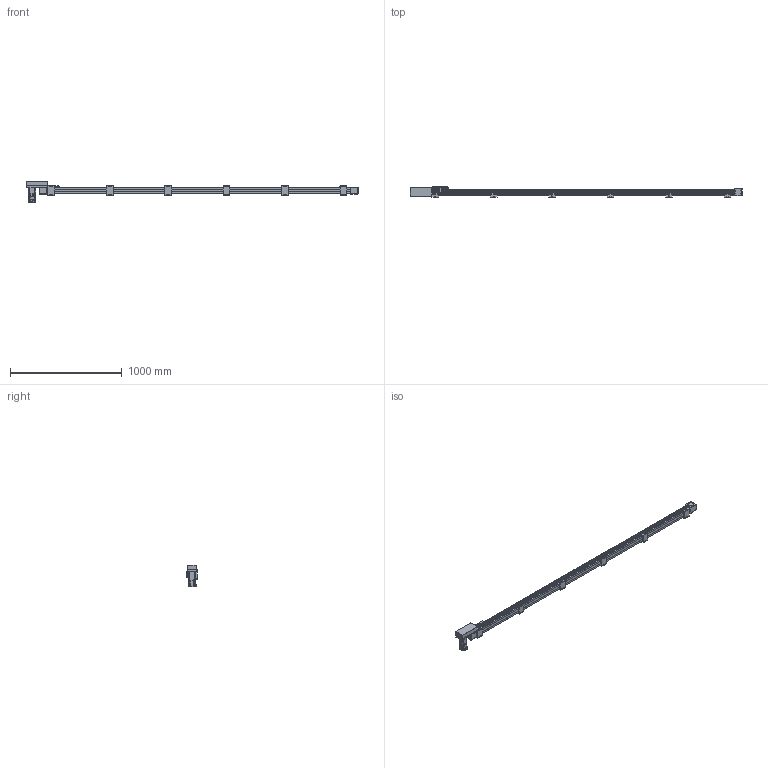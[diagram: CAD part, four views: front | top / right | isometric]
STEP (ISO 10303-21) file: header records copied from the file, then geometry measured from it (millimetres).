
FILE_DESCRIPTION(/* description */ ('STEP AP214'),/* implementation_level */ '2;1');
FILE_NAME(/* name */ 'SK60-P13-S2550-R-T40-C1-N(0)',/* time_stamp */ '2023-04-06T04:28:38+02:00',/* author */ ('License CC BY-ND 4.0'),/* organization */ ('CADENAS'),/* preprocessor_version */ 'ST-DEVELOPER v19.3',/* originating_system */ 'PARTsolutions',/* authorisation */ ' ');
FILE_SCHEMA (('AUTOMOTIVE_DESIGN {1 0 10303 214 3 1 1}'));
Length unit declared in the file: millimetre
Products named in the file (10): SK60-P13-S2550-R-T40-C1-N(0); PSC140-sensor; SK60-S450_seat; SK60-S450-BL-C1_slider; SK60_body3; SK60_body6; SK60-BL_body2; T40-p1; SK60-R_fb; SK60-S2550-R-C1_body
Assembly tree (20 placements, depth 2):
  SK60-P13-S2550-R-T40-C1-N(0)
    PSC140-sensor  x3
    SK60-S450_seat  x6
    SK60-S450-BL-C1_slider
    SK60_body3  x3
    SK60_body6  x2
    SK60-BL_body2  x2
    T40-p1
    SK60-R_fb
    SK60-S2550-R-C1_body
Bounding box: 2970.5 x 90 x 189.7 mm (x, y, z)
Volume: 10928903.6 mm3; surface area: 1294803.5 mm2
Topology: 20 solids, 20 shells, 986 faces, 2440 edges, 1605 vertices
Faces by surface type: plane 620, cylinder 326, cone 38, torus 2
Full cylindrical faces by diameter (mm): 2.8 x3, 3.3 x4, 4 x2, 4.5 x30, 4.6 x3, 4.917 x32, 5 x6, 5.478 x4, 5.5 x35, 6.5 x12, 7 x2, 8 x4, 8.5 x4, 9.988 x4, 10 x24, 14 x1, 47 x3, 50 x2
Entity records: 18687 total; most frequent: DIRECTION 3192, CARTESIAN_POINT 3154, ORIENTED_EDGE 2940, EDGE_CURVE 1470, AXIS2_PLACEMENT_3D 1072, LINE 1048, VECTOR 1048, VERTEX_POINT 1034
